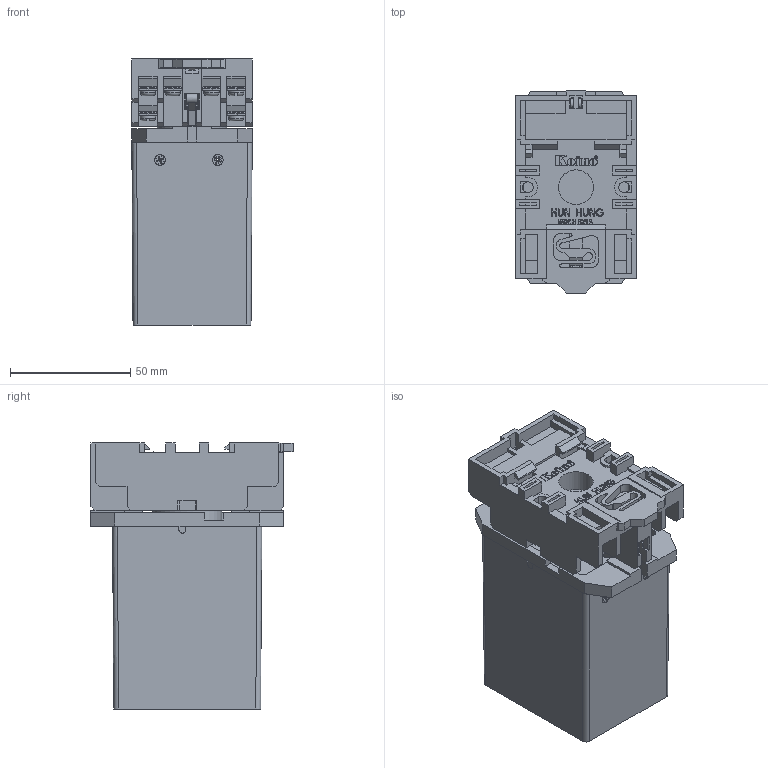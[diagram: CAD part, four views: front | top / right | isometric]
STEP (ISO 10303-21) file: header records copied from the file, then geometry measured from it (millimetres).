
FILE_DESCRIPTION((''),'2;1');
FILE_NAME('D:\yang\Yang cw\SPG 업무\2. DC MOTOR\7. DC MOTOR 브로슈어\SS 고출력 TYPE\SS 고출력(S).stp','2015-03-30T15:43:27',('ycw1227'),(''),'Autodesk Inventor 2013','Autodesk Inventor 2013','');
FILE_SCHEMA(('AUTOMOTIVE_DESIGN { 1 0 10303 214 1 1 1 1 }'));
Length unit declared in the file: millimetre
Products named in the file (1): 부품8
Bounding box: 50 x 84 x 110.5 mm (x, y, z)
Volume: 308463.5 mm3; surface area: 62171.1 mm2
Topology: 1 solids, 11 shells, 3259 faces, 9003 edges, 5758 vertices
Faces by surface type: plane 1625, cylinder 674, bspline 614, cone 302, torus 43, sphere 1
Full cylindrical faces by diameter (mm): 0.636 x1, 0.707 x1, 1.021 x1, 1.135 x1, 2.4 x11, 2.917 x11, 3 x1, 3.5 x85, 4.4 x4, 4.5 x17, 6.417 x11, 7.5 x1, 8.4 x1, 11 x1, 14.4 x1, 28.8 x1, 32 x1
Entity records: 106438 total; most frequent: CARTESIAN_POINT 26962, ORIENTED_EDGE 17126, DIRECTION 14319, EDGE_CURVE 8563, VERTEX_POINT 5685, VECTOR 5239, LINE 5239, AXIS2_PLACEMENT_3D 4540
